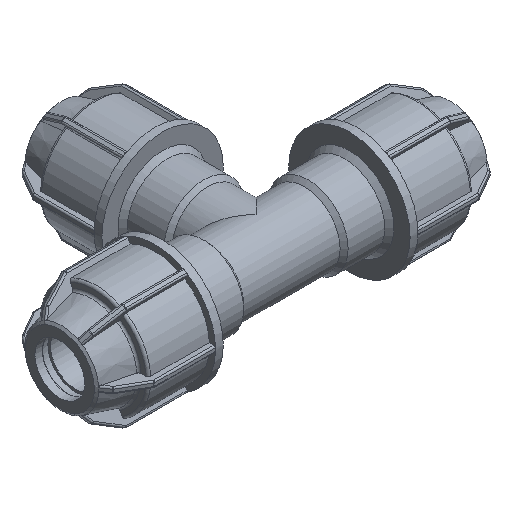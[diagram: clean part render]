
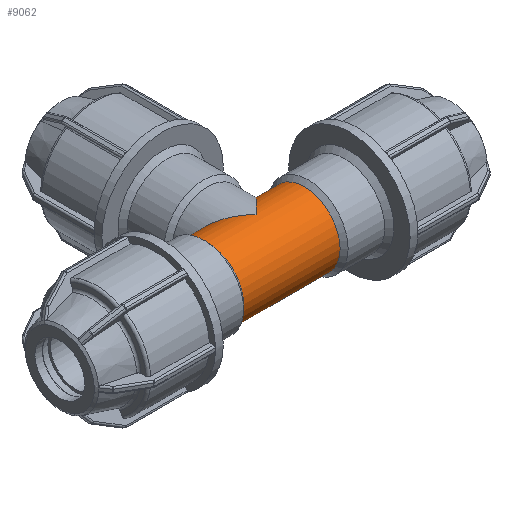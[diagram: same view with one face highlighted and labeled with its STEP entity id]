
A CAD part, isometric view. The second image highlights one B-rep face of the part: STEP entity #9062.
In plain terms, the highlighted cylindrical face has radius 11.52 mm (diameter 23.04 mm), a full revolution.
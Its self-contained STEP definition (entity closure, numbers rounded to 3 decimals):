
#15=ELLIPSE('',#9987,16.292,11.52);
#16=ELLIPSE('',#9988,16.292,11.52);
#1920=CYLINDRICAL_SURFACE('',#10008,11.52);
#2009=FACE_BOUND('',#3058,.T.);
#2010=FACE_BOUND('',#3059,.T.);
#2426=FACE_OUTER_BOUND('',#3057,.T.);
#3057=EDGE_LOOP('',(#7731));
#3058=EDGE_LOOP('',(#7732));
#3059=EDGE_LOOP('',(#7733,#7734));
#3271=CIRCLE('',#9264,11.52);
#3277=CIRCLE('',#9274,11.52);
#3775=VERTEX_POINT('',#13134);
#3781=VERTEX_POINT('',#13150);
#4300=VERTEX_POINT('',#16106);
#4301=VERTEX_POINT('',#16107);
#4571=EDGE_CURVE('',#3775,#3775,#3271,.T.);
#4577=EDGE_CURVE('',#3781,#3781,#3277,.T.);
#5467=EDGE_CURVE('',#4300,#4301,#15,.T.);
#5468=EDGE_CURVE('',#4300,#4301,#16,.T.);
#7731=ORIENTED_EDGE('',*,*,#4577,.F.);
#7732=ORIENTED_EDGE('',*,*,#4571,.F.);
#7733=ORIENTED_EDGE('',*,*,#5468,.T.);
#7734=ORIENTED_EDGE('',*,*,#5467,.F.);
#9062=ADVANCED_FACE('',(#2426,#2009,#2010),#1920,.T.);
#9264=AXIS2_PLACEMENT_3D('',#13135,#10376,#10377);
#9274=AXIS2_PLACEMENT_3D('',#13151,#10396,#10397);
#9987=AXIS2_PLACEMENT_3D('',#16108,#12182,#12183);
#9988=AXIS2_PLACEMENT_3D('',#16109,#12184,#12185);
#10008=AXIS2_PLACEMENT_3D('',#16137,#12224,#12225);
#10376=DIRECTION('center_axis',(1.,0.,0.));
#10377=DIRECTION('ref_axis',(0.,0.,-1.));
#10396=DIRECTION('center_axis',(-1.,0.,0.));
#10397=DIRECTION('ref_axis',(0.,0.,-1.));
#12182=DIRECTION('center_axis',(0.707,0.707,0.));
#12183=DIRECTION('ref_axis',(0.707,-0.707,0.));
#12184=DIRECTION('center_axis',(0.707,-0.707,0.));
#12185=DIRECTION('ref_axis',(-0.707,-0.707,0.));
#12224=DIRECTION('center_axis',(1.,0.,0.));
#12225=DIRECTION('ref_axis',(0.,1.,0.));
#13134=CARTESIAN_POINT('',(15.5,11.52,0.));
#13135=CARTESIAN_POINT('Origin',(15.5,0.,0.));
#13150=CARTESIAN_POINT('',(-15.5,-11.52,0.));
#13151=CARTESIAN_POINT('Origin',(-15.5,0.,0.));
#16106=CARTESIAN_POINT('',(0.,0.,-11.52));
#16107=CARTESIAN_POINT('',(0.,0.,11.52));
#16108=CARTESIAN_POINT('Origin',(0.,0.,0.));
#16109=CARTESIAN_POINT('Origin',(0.,0.,
0.));
#16137=CARTESIAN_POINT('Origin',(7.75,0.,0.));
